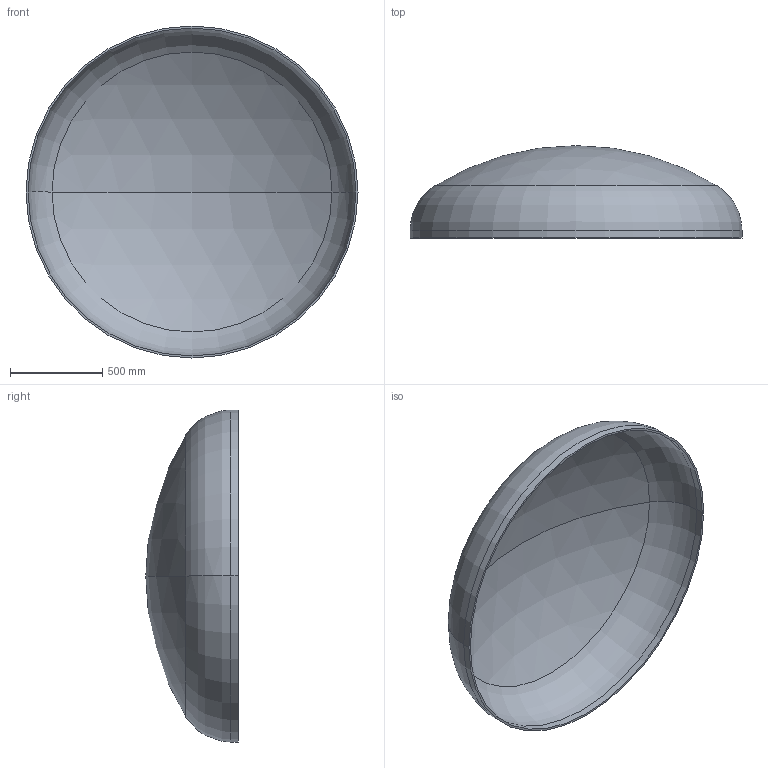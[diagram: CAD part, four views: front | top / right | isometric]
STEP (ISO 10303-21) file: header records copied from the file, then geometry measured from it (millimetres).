
FILE_DESCRIPTION (( 'STEP AP203' ), '1' );
FILE_NAME ('DIN 28013 Korbbogenform_-_Boden DIN 28013 - 1800 x 40 - I - s=11.step', '2016-07-01T12:16:41', ( '' ), ( '' ), 'SwSTEP 2.0', 'SolidWorks 2013', '' );
FILE_SCHEMA (( 'CONFIG_CONTROL_DESIGN' ));
Length unit declared in the file: millimetre
Products named in the file (1): DIN 28013 Korbbogenform_-_Boden DIN 28013 - 1800 x 40 - I - s=11
Bounding box: 1800 x 500.93 x 1800 mm (x, y, z)
Volume: 40870197.8 mm3; surface area: 7493019 mm2
Topology: 1 solids, 1 shells, 13 faces, 24 edges, 14 vertices
Faces by surface type: torus 4, cylinder 4, sphere 4, plane 1
Entity records: 407 total; most frequent: DIRECTION 72, CARTESIAN_POINT 52, ORIENTED_EDGE 48, AXIS2_PLACEMENT_3D 34, EDGE_CURVE 24, CIRCLE 20, EDGE_LOOP 14, VERTEX_POINT 14
